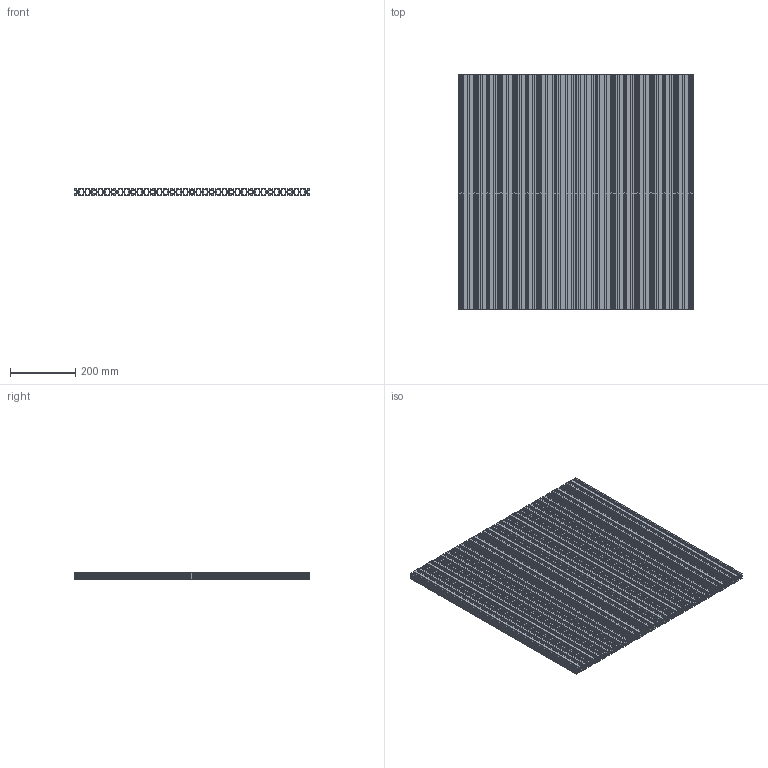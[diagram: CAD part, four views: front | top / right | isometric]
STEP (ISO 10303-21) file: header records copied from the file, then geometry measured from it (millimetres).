
FILE_DESCRIPTION(/* description */ (''),/* implementation_level */ '2;1');
FILE_NAME(/* name */ '2060L-720_720.stp',/* time_stamp */ '2026-02-27T15:23:48+08:00',/* author */ (''),/* organization */ (''),/* preprocessor_version */ 'ST-DEVELOPER v16.7',/* originating_system */ 'SIEMENS PLM Software NX 12.0',/* authorisation */ '');
FILE_SCHEMA (('AUTOMOTIVE_DESIGN { 1 0 10303 214 3 1 1 1 }'));
Length unit declared in the file: millimetre
Products named in the file (2): 2060L-720; 2060L-720_720
Assembly tree (12 placements, depth 2):
  2060L-720_720
    2060L-720  x12
Bounding box: 720 x 720 x 20 mm (x, y, z)
Volume: 3660849.7 mm3; surface area: 3913259 mm2
Topology: 12 solids, 12 shells, 2196 faces, 6516 edges, 4344 vertices
Faces by surface type: plane 1704, cylinder 492
Full cylindrical faces by diameter (mm): 5 x36
Entity records: 7496 total; most frequent: CARTESIAN_POINT 1098, ORIENTED_EDGE 1080, DIRECTION 1014, EDGE_CURVE 540, LINE 458, VECTOR 458, VERTEX_POINT 362, AXIS2_PLACEMENT_3D 278
